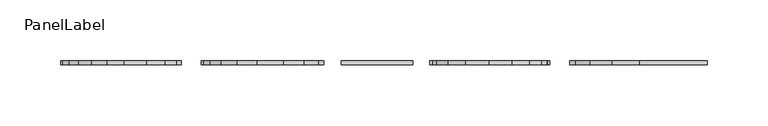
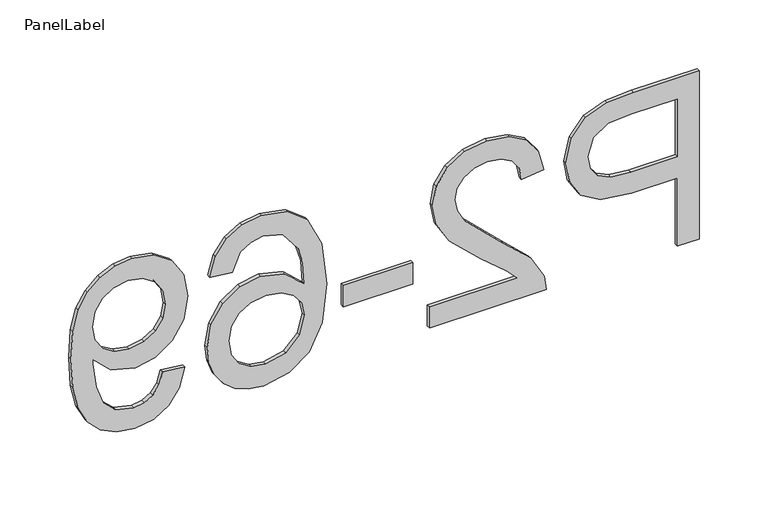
"""IFC4 building model written with IfcOpenShell, lengths in millimetres: fastener geometry, PanelLabel : Miranda."""

from ifc_helpers import new_model, si_unit, frame, origin, place, context, project, spatial, polyline, outline, extrude, source, transform, mapped, element, save


def panellabel_aeb8809d(model_context):
    return source(origin(), model_context, "Body", "SweptSolid", [
        extrude(outline(polyline([(1310.9113766, 260.2523077), (1460.9667612, 260.2523077), (1460.9667612, 204.6409615), (1459.5380112, 182.2205769), (1452.5224823, 163.9948558), (1438.0151747, 152.1801923), (1417.554742, 147.7107692), (1399.8693814, 150.7285457), (1385.1331073, 159.781875), (1375.1868093, 176.7116466), (1371.8713766, 203.35875), (1371.8713766, 241.4953846), (1310.9113766, 241.4953846), (1310.9113766, 260.2523077)]), holes=[polyline([(1390.6282997, 241.4953846), (1390.6282997, 202.2597115), (1392.3501266, 185.6275962), (1397.5156073, 174.6372115), (1405.8041891, 168.5100721), (1416.8953189, 166.4676923), (1432.4283958, 171.2851442), (1440.9276266, 183.9424038), (1442.2098381, 202.6993269), (1442.2098381, 241.4953846), (1390.6282997, 241.4953846)])]), frame((0.0, 60.325, 0.0), z_axis=(0.0, 1.0, 0.0), x_axis=(0.0, 0.0, 1.0)), (0.0, 0.0, 1.0), 3.175),
        extrude(outline(polyline([(1329.6682997, 32.8246154), (1310.9113766, 32.8246154), (1310.9113766, 131.2984615), (1323.8433958, 129.2835577), (1343.7543093, 117.8901923), (1365.4969535, 94.4074038), (1396.7462804, 62.0224038), (1407.5168573, 55.9502163), (1417.9943573, 53.9261538), (1427.3865569, 55.8357332), (1435.1943093, 61.5644712), (1440.4559559, 70.3705168), (1442.2098381, 81.5120192), (1440.4971698, 93.2121995), (1435.359165, 102.3021635), (1427.1988045, 108.1682813), (1416.4190689, 110.1969231), (1418.7636843, 128.9538462), (1436.9069775, 124.4065745), (1450.1595497, 114.5747596), (1458.2649583, 99.9712861), (1460.9667612, 81.1090385), (1457.9627227, 62.1094111), (1448.9506073, 47.5334135), (1435.4873862, 38.2602764), (1419.1300304, 35.1692308), (1401.3439247, 38.5029808), (1382.9533477, 49.5849519), (1357.254165, 76.4564423), (1339.211617, 98.0342308), (1329.6682997, 106.4968269), (1329.6682997, 32.8246154)])), frame((0.0, 60.325, 0.0), z_axis=(0.0, 1.0, 0.0), x_axis=(0.0, 0.0, 1.0)), (0.0, 0.0, 1.0), 3.175),
        extrude(outline(polyline([(-39.8584615, 63.5), (18.7569231, 63.5), (18.7569231, 60.325), (-39.8584615, 60.325), (-39.8584615, 63.5)])), frame((0.0, 0.0, 1355.4590689), z_axis=(0.0, 0.0, 1.0), x_axis=(1.0, 0.0, 0.0)), (0.0, 0.0, 1.0), 18.7569231),
        extrude(outline(polyline([(1421.1082997, -152.4), (1418.7636843, -133.6430769), (1434.406665, -126.5359615), (1440.2590448, -118.0275721), (1442.2098381, -107.7424038), (1437.6671458, -90.8172115), (1420.6137323, -78.0134135), (1406.6422059, -74.1255649), (1387.1846458, -72.6830769), (1402.1498862, -89.2236058), (1407.0406073, -109.7206731), (1403.6976987, -127.0488462), (1393.6689727, -141.5927885), (1378.3465448, -151.4566587), (1359.1225304, -154.7446154), (1345.6913646, -153.1968029), (1333.2401747, -148.5533654), (1322.6802468, -141.1989663), (1314.922867, -131.5182692), (1310.1557876, -119.9508894), (1308.5667612, -106.9364423), (1312.779742, -85.6563101), (1325.4186843, -68.7082212), (1347.729165, -57.6216707), (1380.9567612, -53.9261538), (1418.3149102, -58.0292308), (1443.8583958, -70.3384615), (1456.6896698, -87.1445913), (1460.9667612, -108.9147115), (1458.3199102, -125.3728125), (1450.3793573, -138.5521154), (1437.767891, -147.7840385), (1421.1082997, -152.4)]), holes=[polyline([(1359.4156073, -72.6830769), (1343.1681554, -77.0242788), (1331.3718093, -88.5641827), (1327.3236843, -105.4710577), (1329.421016, -117.8489784), (1335.7130112, -127.5800481), (1345.6043573, -133.8857812), (1358.499742, -135.9876923), (1370.8776626, -133.9132572), (1380.3156554, -127.6899519), (1386.2916771, -117.7940264), (1388.2836843, -104.7017308), (1386.2916771, -92.3421274), (1380.3156554, -82.0065865), (1371.106629, -75.0139543), (1359.4156073, -72.6830769)])]), frame((0.0, 60.325, 0.0), z_axis=(0.0, 1.0, 0.0), x_axis=(0.0, 0.0, 1.0)), (0.0, 0.0, 1.0), 3.175),
        extrude(outline(polyline([(1348.4252227, -173.5015385), (1350.7698381, -192.2584615), (1340.122903, -195.4639904), (1332.8738285, -200.6844231), (1328.7112203, -207.7915385), (1327.3236843, -216.6571154), (1330.8955593, -231.8421635), (1340.4388766, -242.1364904), (1356.7412804, -248.2727885), (1378.502242, -250.98375), (1382.1657035, -250.8738462), (1367.9514727, -235.8719712), (1362.492915, -215.3016346), (1365.826665, -198.1978486), (1375.827915, -183.9607212), (1391.2785641, -174.3578726), (1410.9605112, -171.1569231), (1431.2927227, -174.5135697), (1447.2287804, -184.5835096), (1457.532266, -199.7090264), (1460.9667612, -218.2324038), (1459.0068093, -232.2222476), (1453.1269535, -244.9573558), (1443.6202708, -255.6088702), (1430.7798381, -263.3479327), (1413.030367, -268.0600601), (1388.7965689, -269.6307692), (1363.1019655, -268.0646394), (1343.2414247, -263.36625), (1328.3173982, -255.5768149), (1317.4323381, -244.7375481), (1310.7831554, -231.3155409), (1308.5667612, -215.7778846), (1311.1815569, -199.7410817), (1319.0259439, -186.9464423), (1331.6053549, -177.9984375), (1348.4252227, -173.5015385)]), holes=[polyline([(1411.4001266, -250.8738462), (1424.1123381, -248.8497837), (1433.8937804, -242.7775962), (1440.1308237, -233.3533413), (1442.2098381, -221.2730769), (1439.9705472, -208.7440385), (1433.2526747, -198.7061538), (1422.9720857, -192.1119231), (1410.0446458, -189.9138462), (1398.4543694, -191.9928606), (1389.2545016, -198.2299038), (1383.251004, -208.0205048), (1381.2498381, -220.7601923), (1383.251004, -232.7442909), (1389.2545016, -242.3929327), (1398.7932396, -248.7536178), (1411.4001266, -250.8738462)])]), frame((0.0, 60.325, 0.0), z_axis=(0.0, 1.0, 0.0), x_axis=(0.0, 0.0, 1.0)), (0.0, 0.0, 1.0), 3.175),
    ])


if __name__ == "__main__":
    model = new_model("IFC4")
    model_context = context("Model", 3, world=origin())
    ifc_project = project(units=[si_unit("LENGTHUNIT", "METRE", prefix="MILLI")], contexts=[model_context])
    site = spatial("IfcSite", under=ifc_project)
    building = spatial("IfcBuilding", under=site)
    placement = place(None, origin())
    panellabel_shape = panellabel_aeb8809d(model_context)
    element("IfcFastener", 1, ObjectType="PanelLabel : Miranda", at=placement, inside=building, context=model_context, shape_type="MappedRepresentation", body=[
        mapped(panellabel_shape, transform((0.0, 0.0, 0.0), x_axis=(1.0, 0.0, 0.0), y_axis=(0.0, 1.0, 0.0), z_axis=(0.0, 0.0, 1.0))),
    ])
    save(model, "model.ifc")
